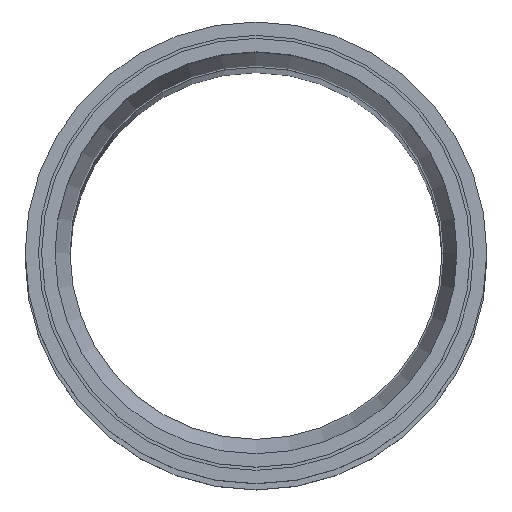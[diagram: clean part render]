
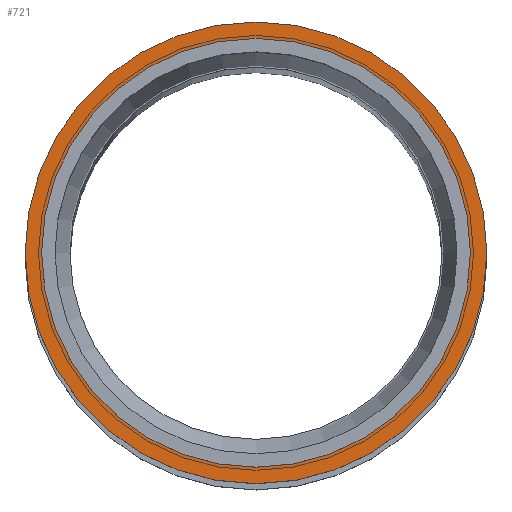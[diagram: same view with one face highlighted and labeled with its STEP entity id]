
A CAD part, top view. The second image highlights one B-rep face of the part: STEP entity #721.
In plain terms, the highlighted planar face has unit normal (0, 0, 1) as drawn and (1, 0, 0) by its records, which use the part's own axes.
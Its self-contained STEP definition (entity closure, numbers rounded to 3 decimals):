
#104=PLANE($,#801);
#131=FACE_BOUND($,#239,.T.);
#132=FACE_BOUND($,#240,.T.);
#239=EDGE_LOOP($,(#605));
#240=EDGE_LOOP($,(#606));
#288=CIRCLE($,#800,72.475);
#289=CIRCLE($,#802,67.3);
#358=VERTEX_POINT($,#1929);
#359=VERTEX_POINT($,#1932);
#444=EDGE_CURVE($,#358,#358,#288,.T.);
#445=EDGE_CURVE($,#359,#359,#289,.T.);
#605=ORIENTED_EDGE($,*,*,#445,.F.);
#606=ORIENTED_EDGE($,*,*,#444,.T.);
#721=ADVANCED_FACE($,(#131,#132),#104,.T.);
#800=AXIS2_PLACEMENT_3D($,#1930,#954,#955);
#801=AXIS2_PLACEMENT_3D($,#1931,#956,#957);
#802=AXIS2_PLACEMENT_3D($,#1933,#958,#959);
#954=DIRECTION('center_axis',(1.,0.,0.));
#955=DIRECTION('ref_axis',(0.,1.,0.));
#956=DIRECTION('center_axis',(1.,0.,0.));
#957=DIRECTION('ref_axis',(0.,0.,-1.));
#958=DIRECTION('center_axis',(1.,0.,0.));
#959=DIRECTION('ref_axis',(0.,1.,0.));
#1929=CARTESIAN_POINT('',(82.7,72.475,0.));
#1930=CARTESIAN_POINT('Origin',(82.7,0.,0.));
#1931=CARTESIAN_POINT('Origin',(82.7,69.888,0.));
#1932=CARTESIAN_POINT('',(82.7,67.3,0.));
#1933=CARTESIAN_POINT('Origin',(82.7,0.,0.));
